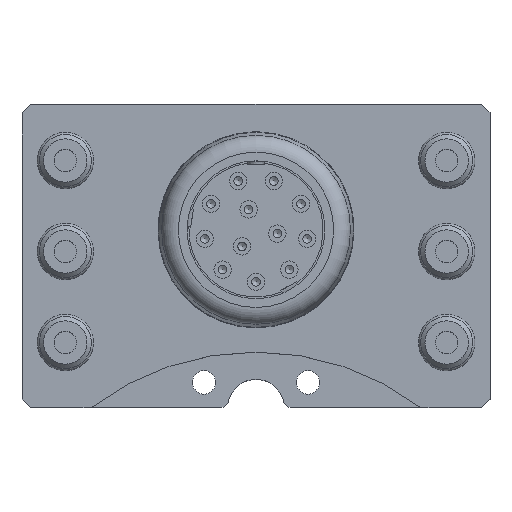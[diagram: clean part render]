
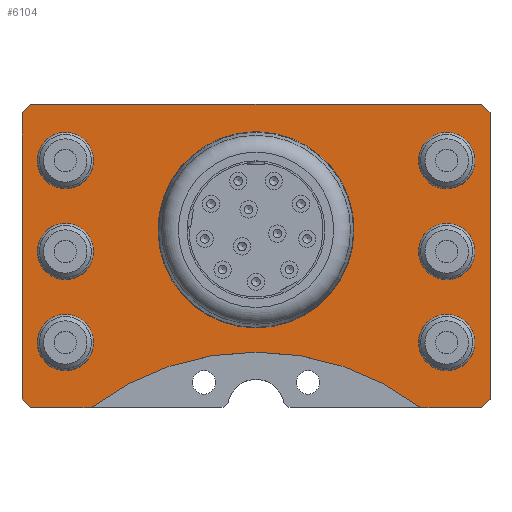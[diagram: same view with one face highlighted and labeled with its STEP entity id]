
A CAD part, top view. The second image highlights one B-rep face of the part: STEP entity #6104.
In plain terms, the highlighted planar face has unit normal (0, 0, 1).
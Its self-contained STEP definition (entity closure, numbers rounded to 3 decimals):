
#148=LINE('',#9151,#465);
#153=LINE('',#9402,#470);
#155=LINE('',#9406,#472);
#157=LINE('',#9416,#474);
#158=LINE('',#9418,#475);
#159=LINE('',#9420,#476);
#160=LINE('',#9421,#477);
#161=LINE('',#9425,#478);
#162=LINE('',#9426,#479);
#465=VECTOR('',#7325,10.);
#470=VECTOR('',#7548,10.);
#472=VECTOR('',#7552,10.);
#474=VECTOR('',#7562,10.);
#475=VECTOR('',#7563,10.);
#476=VECTOR('',#7564,10.);
#477=VECTOR('',#7565,10.);
#478=VECTOR('',#7568,10.);
#479=VECTOR('',#7569,10.);
#792=PLANE('',#6646);
#1168=FACE_BOUND('',#1917,.T.);
#1169=FACE_BOUND('',#1918,.T.);
#1170=FACE_BOUND('',#1919,.T.);
#1171=FACE_BOUND('',#1920,.T.);
#1172=FACE_BOUND('',#1921,.T.);
#1173=FACE_BOUND('',#1922,.T.);
#1174=FACE_BOUND('',#1923,.T.);
#1436=FACE_OUTER_BOUND('',#1916,.T.);
#1916=EDGE_LOOP('',(#4251,#4252,#4253,#4254,#4255,#4256,#4257,#4258,#4259,
#4260));
#1917=EDGE_LOOP('',(#4261));
#1918=EDGE_LOOP('',(#4262));
#1919=EDGE_LOOP('',(#4263));
#1920=EDGE_LOOP('',(#4264));
#1921=EDGE_LOOP('',(#4265));
#1922=EDGE_LOOP('',(#4266));
#1923=EDGE_LOOP('',(#4267));
#2498=CIRCLE('',#6538,11.3);
#2506=CIRCLE('',#6553,3.);
#2514=CIRCLE('',#6568,3.);
#2522=CIRCLE('',#6583,3.);
#2530=CIRCLE('',#6598,3.);
#2538=CIRCLE('',#6613,3.);
#2546=CIRCLE('',#6628,3.);
#2556=CIRCLE('',#6647,31.5);
#2840=VERTEX_POINT('',#9148);
#2841=VERTEX_POINT('',#9150);
#2847=VERTEX_POINT('',#9240);
#2855=VERTEX_POINT('',#9263);
#2863=VERTEX_POINT('',#9286);
#2871=VERTEX_POINT('',#9309);
#2879=VERTEX_POINT('',#9332);
#2887=VERTEX_POINT('',#9355);
#2895=VERTEX_POINT('',#9378);
#2902=VERTEX_POINT('',#9399);
#2903=VERTEX_POINT('',#9401);
#2904=VERTEX_POINT('',#9405);
#2908=VERTEX_POINT('',#9415);
#2909=VERTEX_POINT('',#9417);
#2910=VERTEX_POINT('',#9419);
#2911=VERTEX_POINT('',#9422);
#2912=VERTEX_POINT('',#9424);
#3399=EDGE_CURVE('',#2840,#2841,#148,.T.);
#3408=EDGE_CURVE('',#2847,#2847,#2498,.T.);
#3416=EDGE_CURVE('',#2855,#2855,#2506,.T.);
#3424=EDGE_CURVE('',#2863,#2863,#2514,.T.);
#3432=EDGE_CURVE('',#2871,#2871,#2522,.T.);
#3440=EDGE_CURVE('',#2879,#2879,#2530,.T.);
#3448=EDGE_CURVE('',#2887,#2887,#2538,.T.);
#3456=EDGE_CURVE('',#2895,#2895,#2546,.T.);
#3464=EDGE_CURVE('',#2902,#2903,#153,.T.);
#3466=EDGE_CURVE('',#2903,#2904,#155,.T.);
#3471=EDGE_CURVE('',#2908,#2902,#157,.T.);
#3472=EDGE_CURVE('',#2909,#2908,#158,.T.);
#3473=EDGE_CURVE('',#2910,#2909,#159,.T.);
#3474=EDGE_CURVE('',#2841,#2910,#160,.T.);
#3475=EDGE_CURVE('',#2840,#2911,#2556,.T.);
#3476=EDGE_CURVE('',#2912,#2911,#161,.T.);
#3477=EDGE_CURVE('',#2904,#2912,#162,.T.);
#4251=ORIENTED_EDGE('',*,*,#3464,.F.);
#4252=ORIENTED_EDGE('',*,*,#3471,.F.);
#4253=ORIENTED_EDGE('',*,*,#3472,.F.);
#4254=ORIENTED_EDGE('',*,*,#3473,.F.);
#4255=ORIENTED_EDGE('',*,*,#3474,.F.);
#4256=ORIENTED_EDGE('',*,*,#3399,.F.);
#4257=ORIENTED_EDGE('',*,*,#3475,.T.);
#4258=ORIENTED_EDGE('',*,*,#3476,.F.);
#4259=ORIENTED_EDGE('',*,*,#3477,.F.);
#4260=ORIENTED_EDGE('',*,*,#3466,.F.);
#4261=ORIENTED_EDGE('',*,*,#3408,.T.);
#4262=ORIENTED_EDGE('',*,*,#3416,.T.);
#4263=ORIENTED_EDGE('',*,*,#3424,.T.);
#4264=ORIENTED_EDGE('',*,*,#3432,.T.);
#4265=ORIENTED_EDGE('',*,*,#3440,.T.);
#4266=ORIENTED_EDGE('',*,*,#3448,.T.);
#4267=ORIENTED_EDGE('',*,*,#3456,.T.);
#6104=ADVANCED_FACE('',(#1436,#1168,#1169,#1170,#1171,#1172,#1173,#1174),
#792,.T.);
#6538=AXIS2_PLACEMENT_3D('',#9241,#7339,#7340);
#6553=AXIS2_PLACEMENT_3D('',#9264,#7369,#7370);
#6568=AXIS2_PLACEMENT_3D('',#9287,#7399,#7400);
#6583=AXIS2_PLACEMENT_3D('',#9310,#7429,#7430);
#6598=AXIS2_PLACEMENT_3D('',#9333,#7459,#7460);
#6613=AXIS2_PLACEMENT_3D('',#9356,#7489,#7490);
#6628=AXIS2_PLACEMENT_3D('',#9379,#7519,#7520);
#6646=AXIS2_PLACEMENT_3D('',#9414,#7560,#7561);
#6647=AXIS2_PLACEMENT_3D('',#9423,#7566,#7567);
#7325=DIRECTION('',(-1.,0.,0.));
#7339=DIRECTION('center_axis',(0.,0.,-1.));
#7340=DIRECTION('ref_axis',(0.,-1.,0.));
#7369=DIRECTION('center_axis',(0.,0.,-1.));
#7370=DIRECTION('ref_axis',(-1.,0.,0.));
#7399=DIRECTION('center_axis',(0.,0.,-1.));
#7400=DIRECTION('ref_axis',(-1.,0.,0.));
#7429=DIRECTION('center_axis',(0.,0.,-1.));
#7430=DIRECTION('ref_axis',(-1.,0.,0.));
#7459=DIRECTION('center_axis',(0.,0.,-1.));
#7460=DIRECTION('ref_axis',(1.,0.,0.));
#7489=DIRECTION('center_axis',(0.,0.,-1.));
#7490=DIRECTION('ref_axis',(1.,0.,0.));
#7519=DIRECTION('center_axis',(0.,0.,-1.));
#7520=DIRECTION('ref_axis',(1.,0.,0.));
#7548=DIRECTION('',(0.707,-0.707,0.));
#7552=DIRECTION('',(0.,-1.,0.));
#7560=DIRECTION('center_axis',(0.,0.,1.));
#7561=DIRECTION('ref_axis',(1.,0.,0.));
#7562=DIRECTION('',(1.,0.,0.));
#7563=DIRECTION('',(0.707,0.707,0.));
#7564=DIRECTION('',(0.,1.,0.));
#7565=DIRECTION('',(-0.707,0.707,0.));
#7566=DIRECTION('center_axis',(0.,0.,-1.));
#7567=DIRECTION('ref_axis',(-1.,0.,0.));
#7568=DIRECTION('',(-1.,0.,0.));
#7569=DIRECTION('',(-0.707,-0.707,0.));
#9148=CARTESIAN_POINT('',(-19.033,0.,0.));
#9150=CARTESIAN_POINT('',(-26.,0.,0.));
#9151=CARTESIAN_POINT('',(27.,0.,0.));
#9240=CARTESIAN_POINT('',(0.,9.2,0.));
#9241=CARTESIAN_POINT('Origin',(0.,20.5,0.));
#9263=CARTESIAN_POINT('',(-25.,28.5,0.));
#9264=CARTESIAN_POINT('Origin',(-22.,28.5,0.));
#9286=CARTESIAN_POINT('',(-25.,18.,0.));
#9287=CARTESIAN_POINT('Origin',(-22.,18.,0.));
#9309=CARTESIAN_POINT('',(-25.,7.5,0.));
#9310=CARTESIAN_POINT('Origin',(-22.,7.5,0.));
#9332=CARTESIAN_POINT('',(25.,28.5,0.));
#9333=CARTESIAN_POINT('Origin',(22.,28.5,0.));
#9355=CARTESIAN_POINT('',(25.,18.,0.));
#9356=CARTESIAN_POINT('Origin',(22.,18.,0.));
#9378=CARTESIAN_POINT('',(25.,7.5,0.));
#9379=CARTESIAN_POINT('Origin',(22.,7.5,0.));
#9399=CARTESIAN_POINT('',(26.,35.,0.));
#9401=CARTESIAN_POINT('',(27.,34.,0.));
#9402=CARTESIAN_POINT('',(24.125,36.875,0.));
#9405=CARTESIAN_POINT('',(27.,1.,0.));
#9406=CARTESIAN_POINT('',(27.,35.,0.));
#9414=CARTESIAN_POINT('Origin',(0.,17.5,0.));
#9415=CARTESIAN_POINT('',(-26.,35.,0.));
#9416=CARTESIAN_POINT('',(-27.,35.,0.));
#9417=CARTESIAN_POINT('',(-27.,34.,0.));
#9418=CARTESIAN_POINT('',(-24.125,36.875,0.));
#9419=CARTESIAN_POINT('',(-27.,1.,0.));
#9420=CARTESIAN_POINT('',(-27.,0.,0.));
#9421=CARTESIAN_POINT('',(-24.125,-1.875,0.));
#9422=CARTESIAN_POINT('',(19.033,0.,0.));
#9423=CARTESIAN_POINT('Origin',(0.,-25.1,0.));
#9424=CARTESIAN_POINT('',(26.,0.,0.));
#9425=CARTESIAN_POINT('',(27.,0.,0.));
#9426=CARTESIAN_POINT('',(24.125,-1.875,0.));
